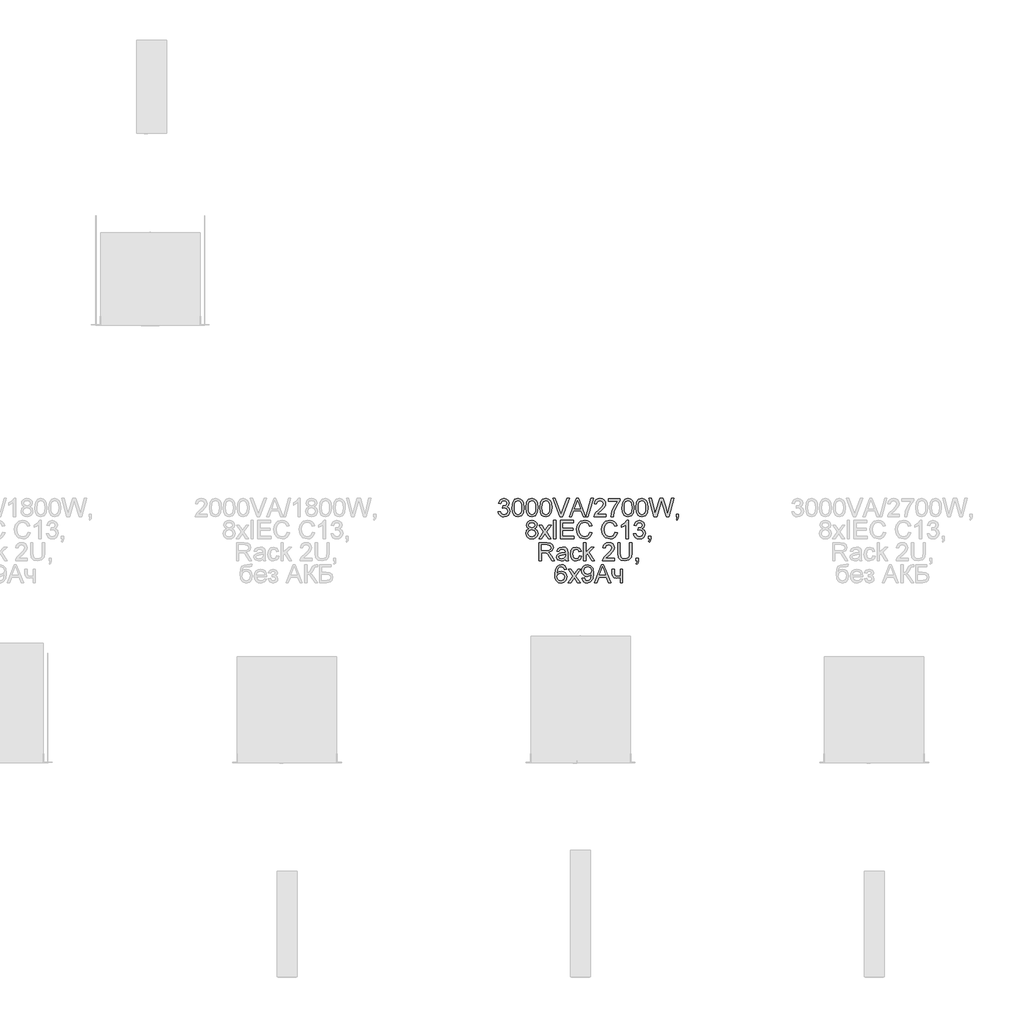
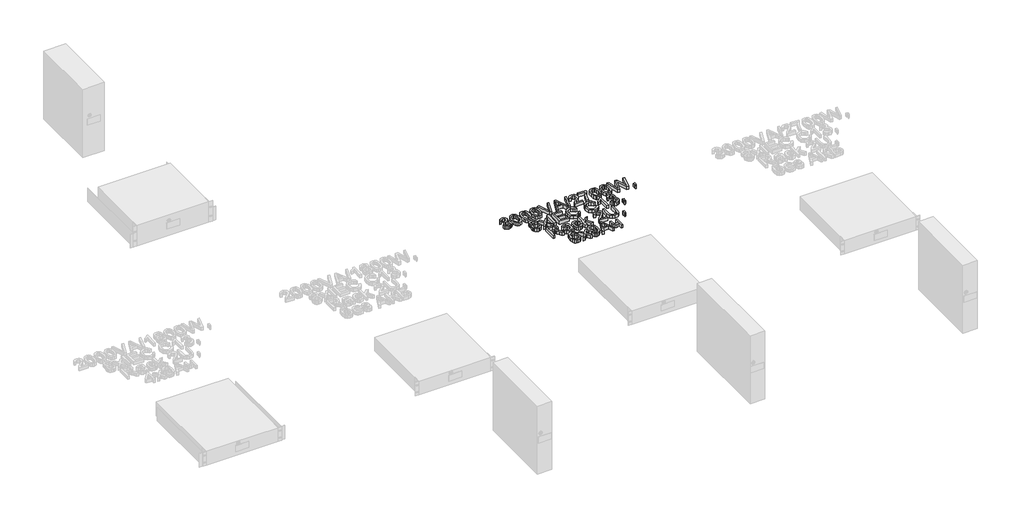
# One storey, part 69 of 74: 1 proxy.
"""IFC4 building model written with IfcOpenShell, lengths in millimetres."""

from ifc_helpers import new_model, si_unit, origin, origin_with_axes, place, context, project, spatial, polyline, outline, extrude, element, save

model = new_model("IFC4")

# Units and contexts
model_context = context("Model", 3, world=origin())
ifc_project = project(units=[si_unit("LENGTHUNIT", "METRE", prefix="MILLI")], contexts=[model_context])

# Site, building, storey
site = spatial("IfcSite", under=ifc_project)
building = spatial("IfcBuilding", under=site)
storey = spatial("IfcBuildingStorey", under=building, Name="Этаж 01", Elevation=0.0)

# Proxy
placement = place(None, origin())
element("IfcBuildingElementProxy", 1, Name="80 мм Arial", ObjectType="80 мм Arial", at=placement, inside=storey, context=model_context, shape_type="SweptSolid", body=[
    extrude(outline(polyline([(6187.6292761, 2283.7121074), (6197.6749071, 2284.9678113), (6203.2176625, 2274.3924302), (6213.5870297, 2271.1550687), (6225.7909018, 2275.6088934), (6230.3232079, 2286.635543), (6225.8301425, 2297.0245306), (6214.4110854, 2301.1349987), (6207.3673714, 2300.0362578), (6208.4857327, 2310.0818888), (6210.0946033, 2309.9641666), (6221.4940401, 2312.8483615), (6226.5560963, 2321.7167701), (6222.8870865, 2329.5747295), (6213.4300667, 2332.6845586), (6203.8553247, 2329.5452989), (6198.930611, 2320.1275199), (6188.88498, 2321.3832237), (6197.1059163, 2337.1383833), (6213.0769, 2342.7301896), (6225.1924804, 2339.9735272), (6233.6684816, 2332.439304), (6236.6017273, 2322.3053813), (6233.8156344, 2313.0445652), (6225.5750777, 2306.3932587), (6236.5232458, 2299.5261281), (6240.368839, 2286.4589597), (6238.4460424, 2276.6683935), (6232.6776527, 2268.4866979), (6223.9711122, 2262.9537527), (6213.233863, 2261.1094377), (6203.5217783, 2262.6839726), (6195.614768, 2267.4075774), (6190.1161584, 2274.6327798), (6187.6292761, 2283.7121074)])), origin_with_axes(), (0.0, 0.0, 1.0), 20.0),
    extrude(outline(polyline([(6249.1587661, 2301.9001933), (6252.1116322, 2325.0228029), (6260.881939, 2338.3548465), (6275.5285475, 2342.7301896), (6287.2615306, 2340.1403004), (6295.3647447, 2332.6747484), (6300.0736342, 2320.7848024), (6301.8983289, 2301.9001933), (6298.9748933, 2278.8756855), (6290.2340171, 2265.5142114), (6275.5285475, 2261.1094377), (6265.090509, 2263.022424), (6257.1638783, 2268.7613832), (6251.1600442, 2282.3533966), (6249.1587661, 2301.9001933)]), holes=[polyline([(6259.2043971, 2301.9198136), (6260.3816195, 2286.1180557), (6263.9132867, 2276.9725093), (6275.5285475, 2271.1550687), (6287.1438084, 2276.9921297), (6290.6754755, 2286.1425811), (6291.8526979, 2301.9198136), (6290.7147163, 2317.3659524), (6287.3007714, 2326.5826226), (6282.0523216, 2331.1590746), (6275.4108253, 2332.6845586), (6264.0702496, 2327.3085764), (6260.4208602, 2317.5180102), (6259.2043971, 2301.9198136)])]), origin_with_axes(), (0.0, 0.0, 1.0), 20.0),
    extrude(outline(polyline([(6310.6882561, 2301.9001933), (6313.6411222, 2325.0228029), (6322.411429, 2338.3548465), (6337.0580375, 2342.7301896), (6348.7910206, 2340.1403004), (6356.8942347, 2332.6747484), (6361.6031242, 2320.7848024), (6363.4278189, 2301.9001933), (6360.5043833, 2278.8756855), (6351.7635071, 2265.5142114), (6337.0580375, 2261.1094377), (6326.619999, 2263.022424), (6318.6933683, 2268.7613832), (6312.6895341, 2282.3533966), (6310.6882561, 2301.9001933)]), holes=[polyline([(6320.7338871, 2301.9198136), (6321.9111095, 2286.1180557), (6325.4427766, 2276.9725093), (6337.0580375, 2271.1550687), (6348.6732983, 2276.9921297), (6352.2049655, 2286.1425811), (6353.3821879, 2301.9198136), (6352.2442062, 2317.3659524), (6348.8302613, 2326.5826226), (6343.5818115, 2331.1590746), (6336.9403152, 2332.6845586), (6325.5997396, 2327.3085764), (6321.9503502, 2317.5180102), (6320.7338871, 2301.9198136)])]), origin_with_axes(), (0.0, 0.0, 1.0), 20.0),
    extrude(outline(polyline([(6372.217746, 2301.9001933), (6375.1706122, 2325.0228029), (6383.9409189, 2338.3548465), (6398.5875274, 2342.7301896), (6410.3205105, 2340.1403004), (6418.4237246, 2332.6747484), (6423.1326142, 2320.7848024), (6424.9573089, 2301.9001933), (6422.0338733, 2278.8756855), (6413.2929971, 2265.5142114), (6398.5875274, 2261.1094377), (6388.149489, 2263.022424), (6380.2228582, 2268.7613832), (6374.2190241, 2282.3533966), (6372.217746, 2301.9001933)]), holes=[polyline([(6382.263377, 2301.9198136), (6383.4405994, 2286.1180557), (6386.9722666, 2276.9725093), (6398.5875274, 2271.1550687), (6410.2027883, 2276.9921297), (6413.7344555, 2286.1425811), (6414.9116778, 2301.9198136), (6413.7736962, 2317.3659524), (6410.3597513, 2326.5826226), (6405.1113015, 2331.1590746), (6398.4698052, 2332.6845586), (6387.1292296, 2327.3085764), (6383.4798402, 2317.5180102), (6382.263377, 2301.9198136)])]), origin_with_axes(), (0.0, 0.0, 1.0), 20.0),
    extrude(outline(polyline([(6461.2549991, 2262.3651415), (6429.2737909, 2342.7301896), (6440.0257554, 2342.7301896), (6461.4315824, 2284.8304687), (6465.7676849, 2271.7829206), (6470.0449262, 2284.8304687), (6491.5096143, 2342.7301896), (6502.2615788, 2342.7301896), (6471.6341764, 2262.3651415), (6461.2549991, 2262.3651415)])), origin_with_axes(), (0.0, 0.0, 1.0), 20.0),
    extrude(outline(polyline([(6502.2419584, 2262.3651415), (6534.3212684, 2342.7301896), (6542.875751, 2342.7301896), (6574.955061, 2262.3651415), (6564.3404392, 2262.3651415), (6555.1384842, 2287.4792191), (6522.0389148, 2287.4792191), (6512.8565802, 2262.3651415), (6502.2419584, 2262.3651415)]), holes=[polyline([(6525.727545, 2297.5248501), (6551.4694745, 2297.5248501), (6544.2295568, 2317.2825658), (6538.5985097, 2332.6845586), (6533.5953146, 2319.0091586), (6525.727545, 2297.5248501)])]), origin_with_axes(), (0.0, 0.0, 1.0), 20.0),
    extrude(outline(polyline([(6576.897478, 2262.3651415), (6599.5001477, 2342.7301896), (6608.5647601, 2342.7301896), (6585.9620903, 2262.3651415), (6576.897478, 2262.3651415)])), origin_with_axes(), (0.0, 0.0, 1.0), 20.0),
    extrude(outline(polyline([(6664.7967493, 2272.4107725), (6664.7967493, 2262.3651415), (6612.0571865, 2262.3651415), (6613.136307, 2269.2911332), (6619.2382431, 2279.954806), (6631.8149022, 2291.5994974), (6649.159312, 2308.3356756), (6653.4954145, 2319.715492), (6649.4045667, 2328.9272572), (6638.7212735, 2332.6845586), (6627.5867118, 2329.0155489), (6623.3585214, 2318.871816), (6613.3128904, 2320.1275199), (6615.7482692, 2329.8445096), (6621.0138868, 2336.9421796), (6628.835058, 2341.2831871), (6638.9370976, 2342.7301896), (6649.1127136, 2341.1213191), (6656.9191696, 2336.2947073), (6661.8855765, 2329.0842202), (6663.5410455, 2320.3237236), (6661.7555915, 2310.7980325), (6655.8204287, 2300.9486052), (6641.428885, 2287.1849135), (6629.8724853, 2277.5218797), (6625.3401791, 2272.4107725), (6664.7967493, 2272.4107725)])), origin_with_axes(), (0.0, 0.0, 1.0), 20.0),
    extrude(outline(polyline([(6674.8423804, 2331.4288548), (6674.8423804, 2341.4744858), (6727.5819432, 2341.4744858), (6727.5819432, 2333.3516513), (6712.6214087, 2311.7398104), (6701.172921, 2284.2026168), (6697.4450501, 2262.3651415), (6687.3994191, 2262.3651415), (6691.392165, 2285.0266724), (6702.3501434, 2310.6410695), (6717.5363122, 2331.4288548), (6674.8423804, 2331.4288548)])), origin_with_axes(), (0.0, 0.0, 1.0), 20.0),
    extrude(outline(polyline([(6736.3718703, 2301.9001933), (6739.3247365, 2325.0228029), (6748.0950432, 2338.3548465), (6762.7416517, 2342.7301896), (6774.4746348, 2340.1403004), (6782.5778489, 2332.6747484), (6787.2867385, 2320.7848024), (6789.1114332, 2301.9001933), (6786.1879976, 2278.8756855), (6777.4471214, 2265.5142114), (6762.7416517, 2261.1094377), (6752.3036133, 2263.022424), (6744.3769825, 2268.7613832), (6738.3731484, 2282.3533966), (6736.3718703, 2301.9001933)]), holes=[polyline([(6746.4175013, 2301.9198136), (6747.5947237, 2286.1180557), (6751.1263909, 2276.9725093), (6762.7416517, 2271.1550687), (6774.3569126, 2276.9921297), (6777.8885798, 2286.1425811), (6779.0658021, 2301.9198136), (6777.9278205, 2317.3659524), (6774.5138756, 2326.5826226), (6769.2654258, 2331.1590746), (6762.6239295, 2332.6845586), (6751.2833539, 2327.3085764), (6747.6339645, 2317.5180102), (6746.4175013, 2301.9198136)])]), origin_with_axes(), (0.0, 0.0, 1.0), 20.0),
    extrude(outline(polyline([(6797.9013603, 2301.9001933), (6800.8542264, 2325.0228029), (6809.6245332, 2338.3548465), (6824.2711417, 2342.7301896), (6836.0041248, 2340.1403004), (6844.1073389, 2332.6747484), (6848.8162284, 2320.7848024), (6850.6409231, 2301.9001933), (6847.7174875, 2278.8756855), (6838.9766113, 2265.5142114), (6824.2711417, 2261.1094377), (6813.8331032, 2263.022424), (6805.9064725, 2268.7613832), (6799.9026383, 2282.3533966), (6797.9013603, 2301.9001933)]), holes=[polyline([(6807.9469913, 2301.9198136), (6809.1242137, 2286.1180557), (6812.6558808, 2276.9725093), (6824.2711417, 2271.1550687), (6835.8864026, 2276.9921297), (6839.4180697, 2286.1425811), (6840.5952921, 2301.9198136), (6839.4573105, 2317.3659524), (6836.0433656, 2326.5826226), (6830.7949158, 2331.1590746), (6824.1534195, 2332.6845586), (6812.8128438, 2327.3085764), (6809.1634544, 2317.5180102), (6807.9469913, 2301.9198136)])]), origin_with_axes(), (0.0, 0.0, 1.0), 20.0),
    extrude(outline(polyline([(6877.5796954, 2262.3651415), (6855.6637386, 2342.7301896), (6866.0232956, 2342.7301896), (6878.7372974, 2289.9121453), (6882.661372, 2273.6076153), (6886.8601318, 2288.0285895), (6902.7918748, 2342.7301896), (6917.7229787, 2342.7301896), (6929.2989988, 2303.0774157), (6937.9123426, 2273.6076153), (6941.7186949, 2289.4412564), (6954.5504189, 2342.7301896), (6964.9099759, 2342.7301896), (6942.9743988, 2262.3651415), (6932.2420547, 2262.3651415), (6912.9748484, 2324.3655204), (6910.2868573, 2333.018105), (6907.2653198, 2322.5996869), (6889.7050859, 2262.3651415), (6877.5796954, 2262.3651415)])), origin_with_axes(), (0.0, 0.0, 1.0), 20.0),
    extrude(outline(polyline([(6976.2113108, 2262.3651415), (6976.2113108, 2272.4107725), (6986.2569418, 2272.4107725), (6986.2569418, 2262.3651415), (6984.4518675, 2252.0938762), (6978.7227186, 2246.0409911), (6976.2113108, 2249.8081028), (6979.8999409, 2254.1442052), (6981.2145059, 2262.3651415), (6976.2113108, 2262.3651415)])), origin_with_axes(), (0.0, 0.0, 1.0), 20.0),
    extrude(outline(polyline([(6324.6972024, 2209.0488489), (6315.5442984, 2215.2881276), (6312.5718119, 2225.0002122), (6314.1904927, 2232.8532665), (6319.046535, 2239.3427049), (6326.5954735, 2243.6984278), (6336.2928429, 2245.1503354), (6346.0490734, 2243.6640921), (6353.6961138, 2239.2053623), (6358.6404479, 2232.612917), (6360.2885592, 2224.725527), (6357.3553134, 2215.258697), (6348.4574742, 2209.0488489), (6359.1407674, 2201.1712691), (6362.799967, 2188.172772), (6360.9850824, 2178.5685993), (6355.5404289, 2170.6321584), (6347.1330991, 2165.3052271), (6336.4301855, 2163.5295834), (6325.727272, 2165.3125848), (6317.3199422, 2170.661589), (6311.8752886, 2178.6740588), (6310.0604041, 2188.4474572), (6313.8667565, 2201.7500701), (6324.6972024, 2209.0488489)]), holes=[polyline([(6322.6174429, 2224.7059066), (6326.1785406, 2216.8185166), (6336.5479078, 2213.7577385), (6346.711261, 2216.7988963), (6350.2429282, 2224.254638), (6346.5935388, 2231.9752549), (6336.4301855, 2235.1047044), (6326.2374017, 2232.0439262), (6322.6174429, 2224.7059066)]), polyline([(6320.1060351, 2188.8006239), (6321.783577, 2181.2369701), (6327.7187399, 2175.5764924), (6336.508667, 2173.5752144), (6348.4770946, 2177.7837844), (6352.7543359, 2188.4866979), (6348.339752, 2199.3956254), (6336.1751207, 2203.7121074), (6324.3538459, 2199.4544865), (6320.1060351, 2188.8006239)])]), origin_with_axes(), (0.0, 0.0, 1.0), 20.0),
    extrude(outline(polyline([(6367.8227825, 2164.7852873), (6389.2874706, 2194.4512913), (6369.0784863, 2223.8033695), (6381.1646362, 2223.8033695), (6390.9159616, 2209.6767009), (6395.4678881, 2203.005774), (6399.4115831, 2208.4602377), (6410.5167143, 2223.8033695), (6422.6028641, 2223.8033695), (6401.3736204, 2194.4512913), (6421.8180492, 2164.7852873), (6409.7318994, 2164.7852873), (6397.4299254, 2182.6202064), (6395.1735825, 2185.8771883), (6379.9089323, 2164.7852873), (6367.8227825, 2164.7852873)])), origin_with_axes(), (0.0, 0.0, 1.0), 20.0),
    extrude(outline(polyline([(6433.1193841, 2164.7852873), (6433.1193841, 2245.1503354), (6443.1650151, 2245.1503354), (6443.1650151, 2164.7852873), (6433.1193841, 2164.7852873)])), origin_with_axes(), (0.0, 0.0, 1.0), 20.0),
    extrude(outline(polyline([(6463.2562771, 2164.7852873), (6463.2562771, 2245.1503354), (6521.0186554, 2245.1503354), (6521.0186554, 2235.1047044), (6473.3019081, 2235.1047044), (6473.3019081, 2211.2463307), (6518.5072477, 2211.2463307), (6518.5072477, 2201.2006997), (6473.3019081, 2201.2006997), (6473.3019081, 2174.8309183), (6522.2743593, 2174.8309183), (6522.2743593, 2164.7852873), (6463.2562771, 2164.7852873)])), origin_with_axes(), (0.0, 0.0, 1.0), 20.0),
    extrude(outline(polyline([(6593.8494803, 2193.3525505), (6603.8951113, 2190.7626612), (6599.2597982, 2179.0566561), (6591.9855449, 2170.504626), (6582.4304232, 2165.273344), (6570.9525049, 2163.5295834), (6550.0469974, 2168.8074637), (6537.7842642, 2184.0917344), (6533.5756942, 2205.5760429), (6538.3336347, 2227.4135181), (6551.8618819, 2241.5696173), (6571.168329, 2246.4060392), (6582.182716, 2244.8413145), (6591.2890216, 2240.1471402), (6598.2027506, 2232.612917), (6602.6394074, 2222.5280452), (6592.5937764, 2220.1343597), (6584.3532197, 2232.4853846), (6570.7759216, 2236.3604082), (6555.0600027, 2232.0635465), (6546.1817839, 2220.5267672), (6543.6213252, 2205.5956633), (6546.6526729, 2188.2904942), (6556.0900723, 2177.234414), (6569.9518659, 2173.5752144), (6585.3244282, 2178.5587892), (6593.8494803, 2193.3525505)])), origin_with_axes(), (0.0, 0.0, 1.0), 20.0),
    extrude(outline(polyline([(6705.6071253, 2193.3525505), (6715.6527564, 2190.7626612), (6711.0174432, 2179.0566561), (6703.7431899, 2170.504626), (6694.1880682, 2165.273344), (6682.71015, 2163.5295834), (6661.8046424, 2168.8074637), (6649.5419093, 2184.0917344), (6645.3333393, 2205.5760429), (6650.0912797, 2227.4135181), (6663.619527, 2241.5696173), (6682.9259741, 2246.4060392), (6693.940361, 2244.8413145), (6703.0466667, 2240.1471402), (6709.9603956, 2232.612917), (6714.3970525, 2222.5280452), (6704.3514215, 2220.1343597), (6696.1108648, 2232.4853846), (6682.5335666, 2236.3604082), (6666.8176478, 2232.0635465), (6657.939429, 2220.5267672), (6655.3789703, 2205.5956633), (6658.4103179, 2188.2904942), (6667.8477174, 2177.234414), (6681.7095109, 2173.5752144), (6697.0820732, 2178.5587892), (6705.6071253, 2193.3525505)])), origin_with_axes(), (0.0, 0.0, 1.0), 20.0),
    extrude(outline(polyline([(6763.3695037, 2164.7852873), (6753.3238727, 2164.7852873), (6753.3238727, 2227.4135181), (6743.8079917, 2220.6346792), (6733.2326106, 2215.5628128), (6733.2326106, 2225.0590733), (6747.9577006, 2234.457232), (6756.8947806, 2245.1503354), (6763.3695037, 2245.1503354), (6763.3695037, 2164.7852873)])), origin_with_axes(), (0.0, 0.0, 1.0), 20.0),
    extrude(outline(polyline([(6787.2278773, 2186.1322532), (6797.2735084, 2187.387957), (6802.8162637, 2176.8125759), (6813.1856309, 2173.5752144), (6825.389503, 2178.0290391), (6829.9218092, 2189.0556887), (6825.4287437, 2199.4446763), (6814.0096866, 2203.5551445), (6806.9659727, 2202.4564036), (6808.0843339, 2212.5020346), (6809.6932045, 2212.3843123), (6821.0926413, 2215.2685072), (6826.1546975, 2224.1369158), (6822.4856878, 2231.9948752), (6813.0286679, 2235.1047044), (6803.4539259, 2231.9654447), (6798.5292122, 2222.5476656), (6788.4835812, 2223.8033695), (6796.7045175, 2239.558529), (6812.6755012, 2245.1503354), (6824.7910816, 2242.393673), (6833.2670828, 2234.8594497), (6836.2003285, 2224.725527), (6833.4142356, 2215.4647109), (6825.1736789, 2208.8134044), (6836.121847, 2201.9462739), (6839.9674402, 2188.8791054), (6838.0446436, 2179.0885392), (6832.2762539, 2170.9068437), (6823.5697134, 2165.3738984), (6812.8324642, 2163.5295834), (6803.1203795, 2165.1041183), (6795.2133692, 2169.8277231), (6789.7147596, 2177.0529255), (6787.2278773, 2186.1322532)])), origin_with_axes(), (0.0, 0.0, 1.0), 20.0),
    extrude(outline(polyline([(6853.7801828, 2164.7852873), (6853.7801828, 2174.8309183), (6863.8258138, 2174.8309183), (6863.8258138, 2164.7852873), (6862.0207395, 2154.5140219), (6856.2915906, 2148.4611369), (6853.7801828, 2152.2282485), (6857.468813, 2156.5643509), (6858.7833779, 2164.7852873), (6853.7801828, 2164.7852873)])), origin_with_axes(), (0.0, 0.0, 1.0), 20.0),
    extrude(outline(polyline([(6369.0784863, 2067.205433), (6369.0784863, 2147.5704811), (6403.7084448, 2147.5704811), (6419.7873406, 2145.4024299), (6428.5772677, 2137.730864), (6431.8636802, 2125.5760429), (6426.4190267, 2111.0962075), (6409.5945567, 2103.6208454), (6415.3040853, 2099.3239837), (6423.4465401, 2088.9840471), (6436.8472549, 2067.205433), (6425.173133, 2067.205433), (6414.7154741, 2083.8631297), (6407.1616305, 2094.8897794), (6401.8543196, 2100.0989884), (6397.0767587, 2102.0119748), (6391.2495079, 2102.3651415), (6379.1241174, 2102.3651415), (6379.1241174, 2067.205433), (6369.0784863, 2067.205433)]), holes=[polyline([(6379.1241174, 2112.4107725), (6401.6090649, 2112.4107725), (6413.077173, 2113.8332496), (6419.5911368, 2118.3851761), (6421.8180492, 2125.2032558), (6417.5702384, 2134.052044), (6404.140093, 2137.5248501), (6379.1241174, 2137.5248501), (6379.1241174, 2112.4107725)])]), origin_with_axes(), (0.0, 0.0, 1.0), 20.0),
    extrude(outline(polyline([(6485.8589469, 2074.7396562), (6476.1174317, 2067.9313868), (6465.355657, 2065.9497291), (6450.7679096, 2070.7174798), (6445.6764228, 2082.9017314), (6447.5992194, 2090.8479825), (6452.6514655, 2096.6163722), (6459.6853692, 2099.9125949), (6468.3771945, 2101.4233636), (6485.8000858, 2104.8765493), (6485.8589469, 2107.1132718), (6483.0924743, 2114.5297728), (6471.9873431, 2117.4335881), (6461.8239899, 2115.5009813), (6456.9777577, 2108.6436609), (6446.9321267, 2109.8993648), (6451.2780393, 2119.7095513), (6460.0287257, 2125.4583206), (6473.2822877, 2127.4792191), (6485.4567292, 2125.6937651), (6492.33367, 2121.2105099), (6495.4140686, 2114.3924302), (6495.9045779, 2105.6025031), (6495.9045779, 2093.1043254), (6496.4147076, 2075.6520036), (6498.4159857, 2067.205433), (6488.3703546, 2067.205433), (6485.8589469, 2074.7396562)]), holes=[polyline([(6485.8589469, 2094.8309183), (6469.6525187, 2091.7505197), (6461.0097444, 2090.1220287), (6457.09548, 2087.4732784), (6455.7220538, 2083.6080649), (6458.7141607, 2078.1732215), (6467.4942777, 2075.9953601), (6477.6576309, 2078.3988558), (6484.2108356, 2084.2162964), (6485.8000858, 2091.9859642), (6485.8589469, 2094.8309183)])]), origin_with_axes(), (0.0, 0.0, 1.0), 20.0),
    extrude(outline(polyline([(6547.3884369, 2088.5523989), (6557.4340679, 2087.296695), (6554.6332596, 2078.3620676), (6549.3700945, 2071.6102067), (6533.4383516, 2065.9497291), (6522.7526059, 2067.9240291), (6514.3967795, 2073.8469293), (6509.0036295, 2083.4584595), (6507.2059128, 2096.49865), (6510.2765012, 2113.1857773), (6519.6354191, 2123.9083112), (6533.301009, 2127.4792191), (6548.5754694, 2122.5741258), (6556.178364, 2108.6436609), (6546.132733, 2107.387957), (6541.4728944, 2114.9123701), (6533.3794905, 2117.4335881), (6521.7347991, 2112.4696337), (6517.2515438, 2096.7733352), (6521.6366972, 2080.9298839), (6533.1048053, 2075.9953601), (6542.5716353, 2079.0757587), (6547.3884369, 2088.5523989)])), origin_with_axes(), (0.0, 0.0, 1.0), 20.0),
    extrude(outline(polyline([(6566.223995, 2067.205433), (6566.223995, 2147.5704811), (6576.269626, 2147.5704811), (6576.269626, 2104.38604), (6598.7938143, 2126.2235152), (6612.6850385, 2126.2235152), (6589.8861649, 2104.1113547), (6613.9407423, 2067.205433), (6602.2077592, 2067.205433), (6582.685488, 2097.1265019), (6576.269626, 2090.9068437), (6576.269626, 2067.205433), (6566.223995, 2067.205433)])), origin_with_axes(), (0.0, 0.0, 1.0), 20.0),
    extrude(outline(polyline([(6703.0957176, 2077.251064), (6703.0957176, 2067.205433), (6650.3561548, 2067.205433), (6651.4352753, 2074.1314247), (6657.5372113, 2084.7950974), (6670.1138704, 2096.4397889), (6687.4582802, 2113.1759671), (6691.7943827, 2124.5557835), (6687.7035349, 2133.7675486), (6677.0202418, 2137.5248501), (6665.88568, 2133.8558403), (6661.6574897, 2123.7121074), (6651.6118586, 2124.9678113), (6654.0472374, 2134.6848011), (6659.3128551, 2141.782471), (6667.1340263, 2146.1234786), (6677.2360659, 2147.5704811), (6687.4116819, 2145.9616105), (6695.2181378, 2141.1349987), (6700.1845447, 2133.9245116), (6701.8400137, 2125.164015), (6700.0545598, 2115.6383239), (6694.1193969, 2105.7888966), (6679.7278533, 2092.0252049), (6668.1714535, 2082.3621712), (6663.6391473, 2077.251064), (6703.0957176, 2077.251064)])), origin_with_axes(), (0.0, 0.0, 1.0), 20.0),
    extrude(outline(polyline([(6769.6480231, 2147.5704811), (6779.6936541, 2147.5704811), (6779.6936541, 2101.2075395), (6776.9664222, 2081.9893841), (6767.1366153, 2070.413364), (6748.4972609, 2065.9497291), (6730.1424019, 2069.834563), (6719.9594282, 2081.0868469), (6716.9084602, 2101.2075395), (6716.9084602, 2147.5704811), (6726.9540912, 2147.5704811), (6726.9540912, 2101.5607062), (6728.9357489, 2086.247005), (6735.7440184, 2078.6637309), (6747.555483, 2075.9953601), (6757.7727923, 2077.3148302), (6764.5663464, 2081.2732405), (6768.3776039, 2088.9840471), (6769.6480231, 2101.5607062), (6769.6480231, 2147.5704811)])), origin_with_axes(), (0.0, 0.0, 1.0), 20.0),
    extrude(outline(polyline([(6798.5292122, 2067.205433), (6798.5292122, 2077.251064), (6808.5748432, 2077.251064), (6808.5748432, 2067.205433), (6806.7697689, 2056.9341677), (6801.04062, 2050.8812826), (6798.5292122, 2054.6483942), (6802.2178424, 2058.9844967), (6803.5324074, 2067.205433), (6798.5292122, 2067.205433)])), origin_with_axes(), (0.0, 0.0, 1.0), 20.0),
    extrude(outline(polyline([(6490.8817624, 2028.6436609), (6480.8361314, 2027.387957), (6477.029779, 2035.7658563), (6466.9645276, 2039.9449958), (6457.8999153, 2037.5120695), (6451.0425949, 2028.3787859), (6448.1878306, 2010.4751954), (6457.046429, 2018.4901178), (6468.0240278, 2021.1094377), (6477.3044642, 2019.3190786), (6485.0937523, 2013.9480015), (6490.3765378, 2005.7417804), (6492.1374663, 1995.4459897), (6488.8216232, 1981.5841961), (6479.6981497, 1971.7740096), (6466.5328794, 1968.3698748), (6455.1358952, 1970.6262177), (6446.0590201, 1977.3952464), (6440.1214047, 1989.3440536), (6438.1421996, 2007.139732), (6440.3396814, 2027.1476075), (6446.9321267, 2040.8279126), (6455.9329729, 2047.6999483), (6467.5923796, 2049.9906268), (6476.4068322, 2048.5730549), (6483.4652614, 2044.320339), (6490.8817624, 2028.6436609)]), holes=[polyline([(6448.1878306, 1995.6029527), (6450.5128448, 1986.9013172), (6456.6932623, 1980.5835571), (6465.7480645, 1978.4155058), (6477.5889596, 1982.9085713), (6482.0918353, 1995.1124433), (6477.6478208, 2006.7963755), (6465.3360367, 2011.0638066), (6453.1812155, 2006.7963755), (6448.1878306, 1995.6029527)])]), origin_with_axes(), (0.0, 0.0, 1.0), 20.0),
    extrude(outline(polyline([(6497.1602818, 1969.6255787), (6518.6249699, 1999.2915828), (6498.4159857, 2028.6436609), (6510.5021355, 2028.6436609), (6520.2534609, 2014.5169923), (6524.8053874, 2007.8460655), (6528.7490824, 2013.3005292), (6539.8542136, 2028.6436609), (6551.9403634, 2028.6436609), (6530.7111197, 1999.2915828), (6551.1555485, 1969.6255787), (6539.0693987, 1969.6255787), (6526.7674248, 1987.4604978), (6524.5110818, 1990.7174798), (6509.2464316, 1969.6255787), (6497.1602818, 1969.6255787)])), origin_with_axes(), (0.0, 0.0, 1.0), 20.0),
    extrude(outline(polyline([(6558.6897717, 1989.7168407), (6568.7354028, 1990.9725446), (6573.2480886, 1981.3879924), (6581.8025712, 1978.4155058), (6589.9352159, 1980.3284922), (6595.4485407, 1985.4395994), (6598.7349532, 1994.1706654), (6600.1868608, 2005.825167), (6600.1279997, 2007.7872043), (6592.0934569, 2000.1744996), (6581.0766174, 1997.251064), (6571.9163557, 1999.0365179), (6564.2913883, 2004.3928798), (6559.148398, 2012.6677721), (6557.4340679, 2023.2088176), (6559.2317846, 2034.0981246), (6564.6249346, 2042.6329869), (6572.7256961, 2048.1512168), (6582.6462473, 2049.9906268), (6596.9593094, 2045.791867), (6606.8087367, 2033.8234394), (6610.1736307, 2011.3384919), (6606.8185469, 1986.9405579), (6596.8415872, 1973.1180051), (6581.3316823, 1968.3698748), (6572.742864, 1969.770279), (6565.8904487, 1973.9714913), (6558.6897717, 1989.7168407)]), holes=[polyline([(6600.1279997, 2023.444262), (6595.7918972, 2035.4911711), (6584.2747382, 2039.9449958), (6572.1885884, 2035.1478146), (6567.4796989, 2022.7183082), (6571.9335236, 2011.5837465), (6584.000053, 2007.296695), (6595.5858833, 2011.5837465), (6600.1279997, 2023.444262)])]), origin_with_axes(), (0.0, 0.0, 1.0), 20.0),
    extrude(outline(polyline([(6613.3717515, 1969.6255787), (6645.4510615, 2049.9906268), (6654.0055442, 2049.9906268), (6686.0848541, 1969.6255787), (6675.4702323, 1969.6255787), (6666.2682773, 1994.7396562), (6633.1687079, 1994.7396562), (6623.9863733, 1969.6255787), (6613.3717515, 1969.6255787)]), holes=[polyline([(6636.8573381, 2004.7852873), (6662.5992676, 2004.7852873), (6655.3593499, 2024.5430029), (6649.7283028, 2039.9449958), (6644.7251077, 2026.2695958), (6636.8573381, 2004.7852873)])]), origin_with_axes(), (0.0, 0.0, 1.0), 20.0),
    extrude(outline(polyline([(6691.7943827, 2028.6436609), (6701.8400137, 2028.6436609), (6701.8400137, 2017.3227056), (6702.6542592, 2006.7080838), (6706.5685236, 2000.9593145), (6714.3381914, 1998.5067679), (6728.2097951, 2001.5479257), (6728.2097951, 2028.6436609), (6738.2554261, 2028.6436609), (6738.2554261, 1969.6255787), (6728.2097951, 1969.6255787), (6728.2097951, 1991.9143225), (6711.6502002, 1988.4611369), (6700.2605737, 1992.0614753), (6693.5602163, 2000.880833), (6691.7943827, 2012.3587513), (6691.7943827, 2028.6436609)])), origin_with_axes(), (0.0, 0.0, 1.0), 20.0),
])

save(model, "model.ifc")
